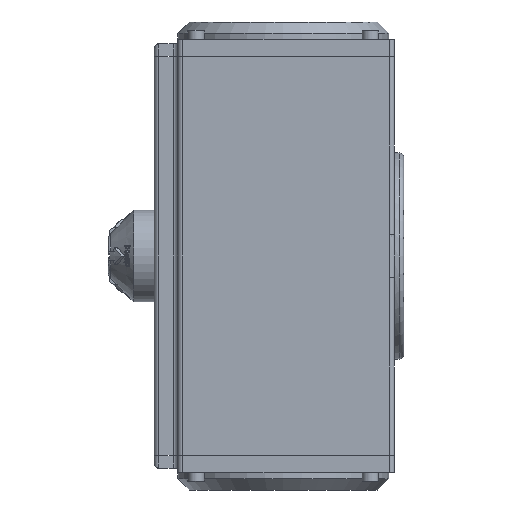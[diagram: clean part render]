
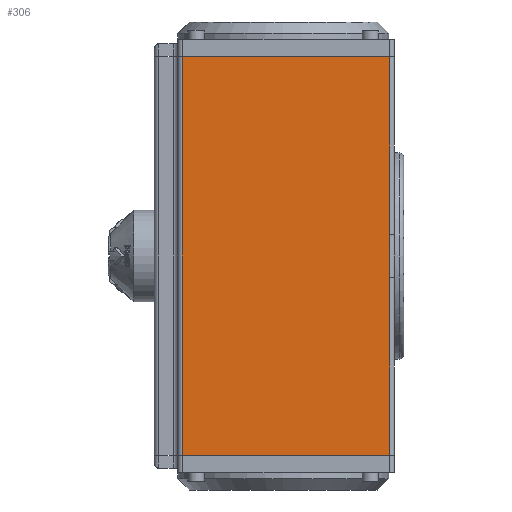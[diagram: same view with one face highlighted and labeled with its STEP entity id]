
A CAD part, left-side view. The second image highlights one B-rep face of the part: STEP entity #306.
In plain terms, the highlighted planar face has unit normal (-1, 0, 0).
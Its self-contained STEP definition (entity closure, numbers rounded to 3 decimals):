
#306=ADVANCED_FACE('',(#9243),#9245,.T.);
#9243=FACE_BOUND('',#9244,.T.);
#9244=EDGE_LOOP('',(#16632,#16633,#16634,#16635,#16636,#16637));
#9245=PLANE('',#9246);
#9246=AXIS2_PLACEMENT_3D('',#9247,#9248,#9249);
#9247=CARTESIAN_POINT('',(-46.,46.,-94.5));
#9248=DIRECTION('',(-1.,0.,0.));
#9249=DIRECTION('',(0.,-1.,0.));
#16632=ORIENTED_EDGE('',*,*,#22676,.T.);
#16633=ORIENTED_EDGE('',*,*,#22677,.T.);
#16634=ORIENTED_EDGE('',*,*,#22678,.T.);
#16635=ORIENTED_EDGE('',*,*,#22679,.T.);
#16636=ORIENTED_EDGE('',*,*,#22575,.T.);
#16637=ORIENTED_EDGE('',*,*,#22675,.F.);
#22575=EDGE_CURVE('',#25110,#25108,#25111,.T.);
#22675=EDGE_CURVE('',#25297,#25108,#25299,.T.);
#22676=EDGE_CURVE('',#25297,#25300,#25301,.F.);
#22677=EDGE_CURVE('',#25300,#25302,#25303,.T.);
#22678=EDGE_CURVE('',#25302,#25304,#25305,.T.);
#22679=EDGE_CURVE('',#25304,#25110,#25306,.T.);
#25108=VERTEX_POINT('',#29274);
#25110=VERTEX_POINT('',#29279);
#25111=LINE('',#29280,#29281);
#25297=VERTEX_POINT('',#29695);
#25299=LINE('',#29700,#29701);
#25300=VERTEX_POINT('',#29703);
#25301=LINE('',#29704,#29705);
#25302=VERTEX_POINT('',#29707);
#25303=LINE('',#29708,#29709);
#25304=VERTEX_POINT('',#29711);
#25305=B_SPLINE_CURVE_WITH_KNOTS('',3,
(#29712,#29713,#29714,#29715,#29716,#29717,#29718,#29719,#29720,#29721,#29722,#29723,
#29724,#29725,#29726,#29727,#29728,#29729,#29730),
.UNSPECIFIED.,.F.,.F.,
(4,1,1,1,1,1,1,1,1,1,1,1,1,1,1,1,4),
(0.,0.076,0.148,0.214,0.282,0.346,
0.406,0.464,0.522,0.581,0.643,
0.708,0.776,0.841,0.909,0.961,
1.),
.UNSPECIFIED.);
#25306=LINE('',#29731,#29732);
#29274=CARTESIAN_POINT('',(-46.,44.,86.9));
#29279=CARTESIAN_POINT('',(-46.,-46.5,86.9));
#29280=CARTESIAN_POINT('',(-46.,-46.5,86.9));
#29281=VECTOR('',#29282,1.);
#29282=DIRECTION('',(0.,1.,0.));
#29695=CARTESIAN_POINT('',(-46.,44.,-86.9));
#29700=CARTESIAN_POINT('',(-46.,44.,-86.9));
#29701=VECTOR('',#29702,1.);
#29702=DIRECTION('',(0.,0.,1.));
#29703=CARTESIAN_POINT('',(-46.,-46.5,-86.9));
#29704=CARTESIAN_POINT('',(-46.,-46.5,-86.9));
#29705=VECTOR('',#29706,1.);
#29706=DIRECTION('',(0.,1.,0.));
#29707=CARTESIAN_POINT('',(-46.,-46.5,-9.434));
#29708=CARTESIAN_POINT('',(-46.,-46.5,-86.9));
#29709=VECTOR('',#29710,1.);
#29710=DIRECTION('',(0.,0.,1.));
#29711=CARTESIAN_POINT('',(-46.,-46.5,9.434));
#29712=CARTESIAN_POINT('',(-46.,-46.5,-9.434));
#29713=CARTESIAN_POINT('',(-46.,-46.5,-8.944));
#29714=CARTESIAN_POINT('',(-46.,-46.515,-7.993));
#29715=CARTESIAN_POINT('',(-46.,-46.563,-6.631));
#29716=CARTESIAN_POINT('',(-46.,-46.618,-5.329));
#29717=CARTESIAN_POINT('',(-46.,-46.673,-4.089));
#29718=CARTESIAN_POINT('',(-46.,-46.718,-2.893));
#29719=CARTESIAN_POINT('',(-46.,-46.75,-1.761));
#29720=CARTESIAN_POINT('',(-46.,-46.768,-0.667));
#29721=CARTESIAN_POINT('',(-46.,-46.769,0.417));
#29722=CARTESIAN_POINT('',(-46.,-46.755,1.524));
#29723=CARTESIAN_POINT('',(-46.,-46.726,2.679));
#29724=CARTESIAN_POINT('',(-46.,-46.681,3.896));
#29725=CARTESIAN_POINT('',(-46.,-46.627,5.139));
#29726=CARTESIAN_POINT('',(-46.,-46.572,6.407));
#29727=CARTESIAN_POINT('',(-46.,-46.529,7.579));
#29728=CARTESIAN_POINT('',(-46.,-46.505,8.595));
#29729=CARTESIAN_POINT('',(-46.,-46.5,9.18));
#29730=CARTESIAN_POINT('',(-46.,-46.5,9.434));
#29731=CARTESIAN_POINT('',(-46.,-46.5,9.434));
#29732=VECTOR('',#29733,1.);
#29733=DIRECTION('',(0.,0.,1.));
